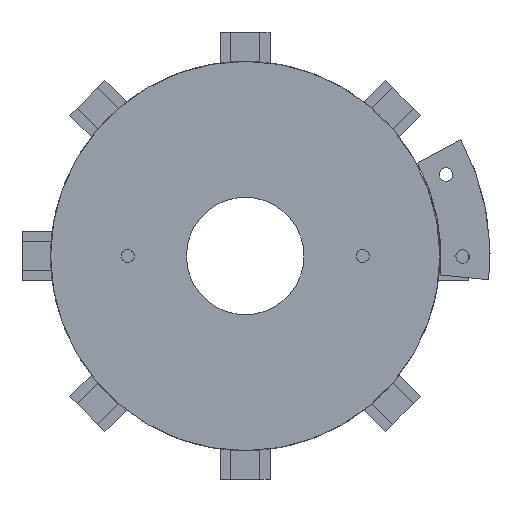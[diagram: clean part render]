
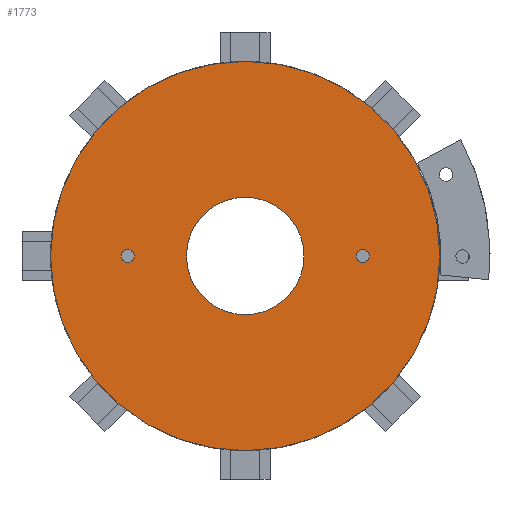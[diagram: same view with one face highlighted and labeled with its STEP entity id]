
A CAD part, front view. The second image highlights one B-rep face of the part: STEP entity #1773.
In plain terms, the highlighted planar face has unit normal (0, -1, 0).
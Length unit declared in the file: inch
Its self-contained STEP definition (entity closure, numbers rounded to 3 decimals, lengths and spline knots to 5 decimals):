
#31 = DIRECTION ( 'NONE',  ( 0., -1., 0. ) ) ;
#81 = CARTESIAN_POINT ( 'NONE',  ( 0., 0., 3.7275 ) ) ;
#172 = ORIENTED_EDGE ( 'NONE', *, *, #435, .F. ) ;
#295 = AXIS2_PLACEMENT_3D ( 'NONE', #6553, #1878, #7319 ) ;
#314 = PLANE ( 'NONE',  #802 ) ;
#358 = EDGE_CURVE ( 'NONE', #5305, #7721, #6237, .T. ) ;
#435 = EDGE_CURVE ( 'NONE', #1841, #1775, #7588, .T. ) ;
#503 = DIRECTION ( 'NONE',  ( 0., 0., 1. ) ) ;
#550 = CARTESIAN_POINT ( 'NONE',  ( 0., 0., 1.125 ) ) ;
#645 = CARTESIAN_POINT ( 'NONE',  ( 0., 0., 0. ) ) ;
#647 = EDGE_LOOP ( 'NONE', ( #3675, #3438 ) ) ;
#802 = AXIS2_PLACEMENT_3D ( 'NONE', #9698, #7346, #2673 ) ;
#810 = EDGE_CURVE ( 'NONE', #960, #2042, #6972, .T. ) ;
#881 = DIRECTION ( 'NONE',  ( 0., 1., 0. ) ) ;
#960 = VERTEX_POINT ( 'NONE', #81 ) ;
#1072 = EDGE_LOOP ( 'NONE', ( #8744, #6479 ) ) ;
#1079 = AXIS2_PLACEMENT_3D ( 'NONE', #4742, #31, #5521 ) ;
#1388 = CARTESIAN_POINT ( 'NONE',  ( 0., 0., -3.7275 ) ) ;
#1394 = EDGE_LOOP ( 'NONE', ( #6800, #4800 ) ) ;
#1572 = AXIS2_PLACEMENT_3D ( 'NONE', #9873, #5194, #503 ) ;
#1579 = FACE_OUTER_BOUND ( 'NONE', #647, .T. ) ;
#1636 = CARTESIAN_POINT ( 'NONE',  ( -2.25, 0., -0.125 ) ) ;
#1773 = ADVANCED_FACE ( 'NONE', ( #5749, #5738, #3694, #1579 ), #314, .F. ) ;
#1775 = VERTEX_POINT ( 'NONE', #6544 ) ;
#1841 = VERTEX_POINT ( 'NONE', #6648 ) ;
#1861 = CARTESIAN_POINT ( 'NONE',  ( 0., 0., -1.125 ) ) ;
#1878 = DIRECTION ( 'NONE',  ( 0., 1., 0. ) ) ;
#2042 = VERTEX_POINT ( 'NONE', #1388 ) ;
#2307 = CARTESIAN_POINT ( 'NONE',  ( -2.25, 0., 0.125 ) ) ;
#2355 = AXIS2_PLACEMENT_3D ( 'NONE', #9273, #10100, #4656 ) ;
#2382 = CARTESIAN_POINT ( 'NONE',  ( 2.25, 0., 0. ) ) ;
#2673 = DIRECTION ( 'NONE',  ( 0., 0., 1. ) ) ;
#2933 = DIRECTION ( 'NONE',  ( 0., 1., 0. ) ) ;
#3063 = CIRCLE ( 'NONE', #1572, 1.125 ) ;
#3164 = DIRECTION ( 'NONE',  ( 0., 0., -1. ) ) ;
#3438 = ORIENTED_EDGE ( 'NONE', *, *, #810, .F. ) ;
#3675 = ORIENTED_EDGE ( 'NONE', *, *, #9476, .F. ) ;
#3694 = FACE_BOUND ( 'NONE', #1394, .T. ) ;
#3887 = VERTEX_POINT ( 'NONE', #550 ) ;
#4021 = CARTESIAN_POINT ( 'NONE',  ( 2.25, 0., 0. ) ) ;
#4503 = EDGE_LOOP ( 'NONE', ( #6366, #172 ) ) ;
#4590 = CIRCLE ( 'NONE', #295, 3.7275 ) ;
#4607 = VERTEX_POINT ( 'NONE', #1861 ) ;
#4656 = DIRECTION ( 'NONE',  ( 0., 0., -1. ) ) ;
#4742 = CARTESIAN_POINT ( 'NONE',  ( -2.25, 0., 0. ) ) ;
#4800 = ORIENTED_EDGE ( 'NONE', *, *, #5228, .T. ) ;
#4806 = DIRECTION ( 'NONE',  ( 0., -1., 0. ) ) ;
#5194 = DIRECTION ( 'NONE',  ( 0., 1., 0. ) ) ;
#5228 = EDGE_CURVE ( 'NONE', #4607, #3887, #3063, .T. ) ;
#5305 = VERTEX_POINT ( 'NONE', #2307 ) ;
#5325 = EDGE_CURVE ( 'NONE', #1775, #1841, #6474, .T. ) ;
#5364 = DIRECTION ( 'NONE',  ( 0., 0., 1. ) ) ;
#5521 = DIRECTION ( 'NONE',  ( 0., 0., -1. ) ) ;
#5570 = CARTESIAN_POINT ( 'NONE',  ( 0., 0., 0. ) ) ;
#5738 = FACE_BOUND ( 'NONE', #4503, .T. ) ;
#5749 = FACE_BOUND ( 'NONE', #1072, .T. ) ;
#5774 = AXIS2_PLACEMENT_3D ( 'NONE', #2382, #7840, #3164 ) ;
#6237 = CIRCLE ( 'NONE', #2355, 0.125 ) ;
#6344 = DIRECTION ( 'NONE',  ( 0., 0., 1. ) ) ;
#6366 = ORIENTED_EDGE ( 'NONE', *, *, #5325, .F. ) ;
#6474 = CIRCLE ( 'NONE', #5774, 0.125 ) ;
#6479 = ORIENTED_EDGE ( 'NONE', *, *, #358, .F. ) ;
#6544 = CARTESIAN_POINT ( 'NONE',  ( 2.25, 0., -0.125 ) ) ;
#6546 = AXIS2_PLACEMENT_3D ( 'NONE', #4021, #4806, #7888 ) ;
#6553 = CARTESIAN_POINT ( 'NONE',  ( 0., 0., 0. ) ) ;
#6648 = CARTESIAN_POINT ( 'NONE',  ( 2.25, 0., 0.125 ) ) ;
#6800 = ORIENTED_EDGE ( 'NONE', *, *, #8872, .T. ) ;
#6972 = CIRCLE ( 'NONE', #8576, 3.7275 ) ;
#7319 = DIRECTION ( 'NONE',  ( 0., 0., 1. ) ) ;
#7346 = DIRECTION ( 'NONE',  ( 0., 1., 0. ) ) ;
#7588 = CIRCLE ( 'NONE', #6546, 0.125 ) ;
#7721 = VERTEX_POINT ( 'NONE', #1636 ) ;
#7840 = DIRECTION ( 'NONE',  ( 0., -1., 0. ) ) ;
#7888 = DIRECTION ( 'NONE',  ( 0., 0., -1. ) ) ;
#8166 = EDGE_CURVE ( 'NONE', #7721, #5305, #9166, .T. ) ;
#8282 = CIRCLE ( 'NONE', #8535, 1.125 ) ;
#8535 = AXIS2_PLACEMENT_3D ( 'NONE', #5570, #881, #6344 ) ;
#8576 = AXIS2_PLACEMENT_3D ( 'NONE', #645, #2933, #5364 ) ;
#8744 = ORIENTED_EDGE ( 'NONE', *, *, #8166, .F. ) ;
#8872 = EDGE_CURVE ( 'NONE', #3887, #4607, #8282, .T. ) ;
#9166 = CIRCLE ( 'NONE', #1079, 0.125 ) ;
#9273 = CARTESIAN_POINT ( 'NONE',  ( -2.25, 0., 0. ) ) ;
#9476 = EDGE_CURVE ( 'NONE', #2042, #960, #4590, .T. ) ;
#9698 = CARTESIAN_POINT ( 'NONE',  ( 0., 0., 0. ) ) ;
#9873 = CARTESIAN_POINT ( 'NONE',  ( 0., 0., 0. ) ) ;
#10100 = DIRECTION ( 'NONE',  ( 0., -1., 0. ) ) ;
